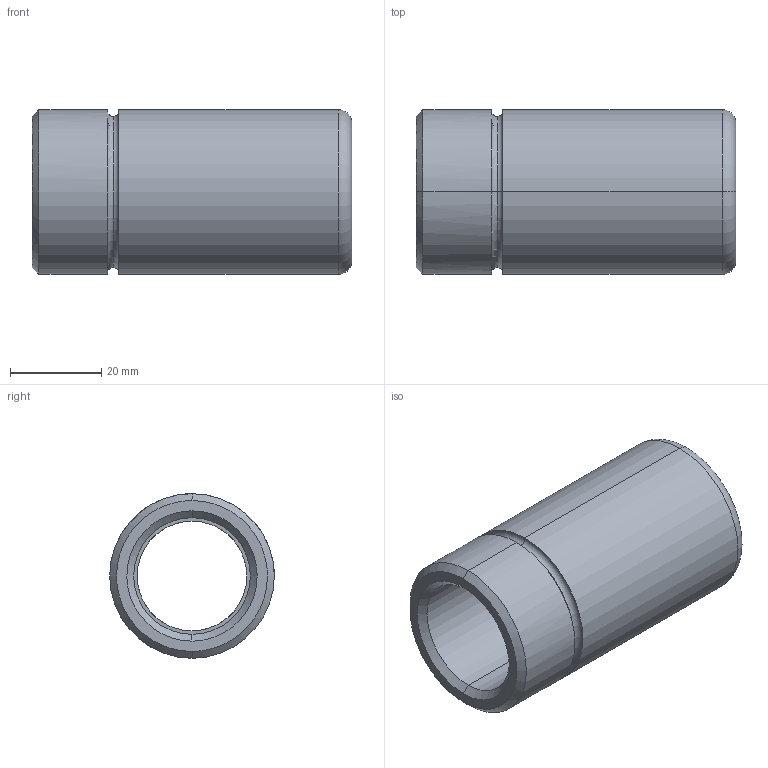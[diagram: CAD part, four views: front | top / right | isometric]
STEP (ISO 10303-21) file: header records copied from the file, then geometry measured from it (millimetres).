
FILE_DESCRIPTION(('CATIA V5 STEP Exchange'),'2;1');
FILE_NAME('C:\Users\Utente\Desktop\IO LAVORO\3D X SITO CF\X SITO\343-348\343-24 x 70.stp','2020-12-30T19:37:19+00:00',('none'),('none'),'CATIA Version 5 Release 20 GA (IN-10)','CATIA V5 STEP AP203','none');
FILE_SCHEMA(('CONFIG_CONTROL_DESIGN'));
Length unit declared in the file: millimetre
Products named in the file (1): 343-24 x 70
Bounding box: 70 x 36 x 36 mm (x, y, z)
Volume: 37124.5 mm3; surface area: 14442.7 mm2
Topology: 1 solids, 1 shells, 29 faces, 86 edges, 60 vertices
Faces by surface type: torus 12, cylinder 10, cone 4, plane 3
Entity records: 1160 total; most frequent: CARTESIAN_POINT 354, ORIENTED_EDGE 172, DIRECTION 130, AXIS2_PLACEMENT_3D 88, EDGE_CURVE 86, VERTEX_POINT 60, CIRCLE 58, EDGE_LOOP 32
